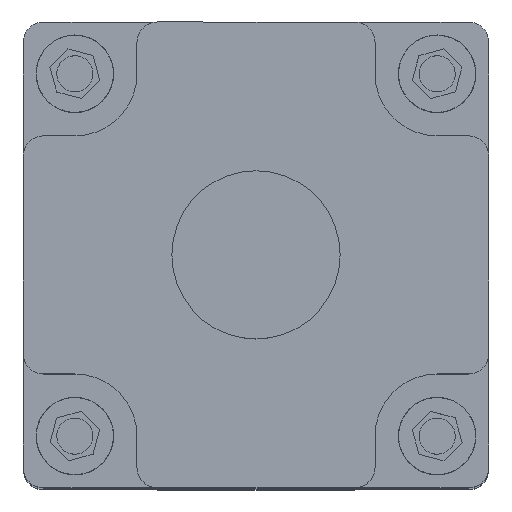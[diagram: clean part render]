
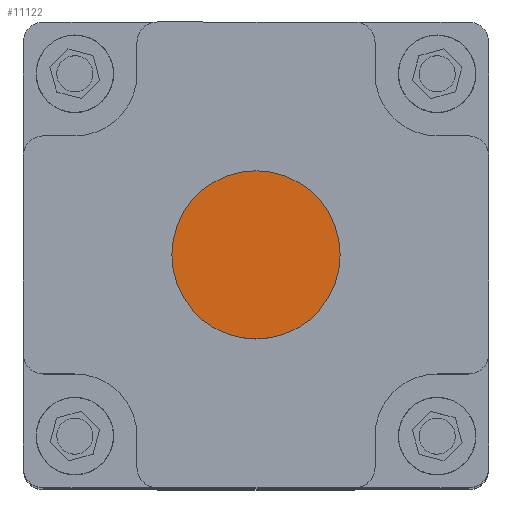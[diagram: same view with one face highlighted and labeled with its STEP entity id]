
A CAD part, top view. The second image highlights one B-rep face of the part: STEP entity #11122.
In plain terms, the highlighted planar face has unit normal (0, 0, 1).
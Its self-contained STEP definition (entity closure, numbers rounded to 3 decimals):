
#60 = CARTESIAN_POINT ( 'NONE',  ( 0., 0., 588. ) ) ;
#1078 = EDGE_LOOP ( 'NONE', ( #12128, #21401 ) ) ;
#1347 = CARTESIAN_POINT ( 'NONE',  ( -32.5, 0., 588. ) ) ;
#2319 = VERTEX_POINT ( 'NONE', #24923 ) ;
#3676 = DIRECTION ( 'NONE',  ( -1., 0., 0. ) ) ;
#4724 = AXIS2_PLACEMENT_3D ( 'NONE', #13506, #21596, #25484 ) ;
#5711 = DIRECTION ( 'NONE',  ( 0., 0., 1. ) ) ;
#6882 = VERTEX_POINT ( 'NONE', #1347 ) ;
#8937 = AXIS2_PLACEMENT_3D ( 'NONE', #60, #5711, #3676 ) ;
#9613 = EDGE_CURVE ( 'NONE', #6882, #2319, #25742, .T. ) ;
#9754 = PLANE ( 'NONE',  #21574 ) ;
#10427 = CIRCLE ( 'NONE', #4724, 32.5 ) ;
#11122 = ADVANCED_FACE ( 'NONE', ( #24445 ), #9754, .T. ) ;
#11315 = EDGE_CURVE ( 'NONE', #2319, #6882, #10427, .T. ) ;
#12128 = ORIENTED_EDGE ( 'NONE', *, *, #11315, .T. ) ;
#13506 = CARTESIAN_POINT ( 'NONE',  ( 0., 0., 588. ) ) ;
#18221 = DIRECTION ( 'NONE',  ( 0., 0., 1. ) ) ;
#21401 = ORIENTED_EDGE ( 'NONE', *, *, #9613, .T. ) ;
#21574 = AXIS2_PLACEMENT_3D ( 'NONE', #24320, #18221, #24184 ) ;
#21596 = DIRECTION ( 'NONE',  ( 0., 0., 1. ) ) ;
#24184 = DIRECTION ( 'NONE',  ( -1., 0., 0. ) ) ;
#24320 = CARTESIAN_POINT ( 'NONE',  ( 0., 0., 588. ) ) ;
#24445 = FACE_OUTER_BOUND ( 'NONE', #1078, .T. ) ;
#24923 = CARTESIAN_POINT ( 'NONE',  ( 32.5, 0., 588. ) ) ;
#25484 = DIRECTION ( 'NONE',  ( -1., 0., 0. ) ) ;
#25742 = CIRCLE ( 'NONE', #8937, 32.5 ) ;
